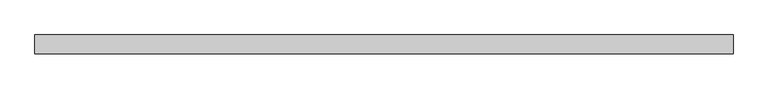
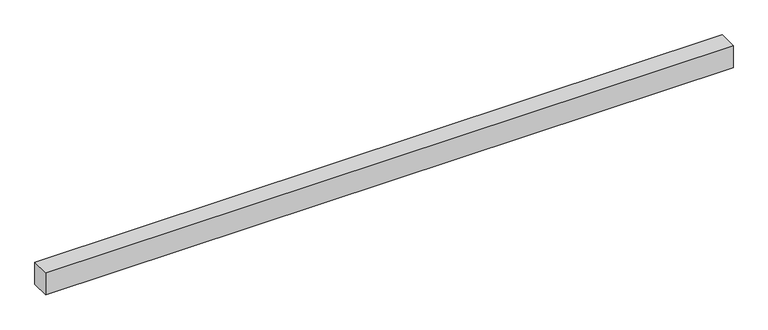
"""IFC4 building model written with IfcOpenShell, lengths in millimetres: light fixture geometry, GENILED_Светильник светодиодный_Line Advanced : Line Advanced 1472x40x50 30Вт Опал."""

from ifc_helpers import new_model, si_unit, origin, origin_with_axes, place, context, project, spatial, polyline, outline, extrude, faceted_brep, source, transform, mapped, element, save


def light_fixture_055937f4(model_context):
    return source(origin(), model_context, "Body", "SolidModel", [
        faceted_brep([(736.0, 20.0, 50.0), (-736.0, 20.0, 50.0), (-736.0, -20.0, 50.0), (736.0, -20.0, 50.0), (734.0, 18.0, 5.0), (734.0, -18.0, 5.0), (-734.0, -18.0, 5.0), (-734.0, 18.0, 5.0), (736.0, 20.0, 0.0), (736.0, -20.0, 0.0), (-736.0, -20.0, 0.0), (-736.0, 20.0, 0.0), (734.0, 18.0, 0.0), (-734.0, 18.0, 0.0), (-734.0, -18.0, 0.0), (734.0, -18.0, 0.0)], [[[0, 1, 2, 3]], [[4, 5, 6, 7]], [[8, 9, 10, 11], [12, 13, 14, 15]], [[1, 0, 8, 11]], [[2, 1, 11, 10]], [[3, 2, 10, 9]], [[0, 3, 9, 8]], [[12, 15, 5, 4]], [[15, 14, 6, 5]], [[14, 13, 7, 6]], [[13, 12, 4, 7]]]),
        extrude(outline(polyline([(734.0, 18.0), (734.0, -18.0), (-734.0, -18.0), (-734.0, 18.0), (734.0, 18.0)])), origin_with_axes(), (0.0, 0.0, 1.0), 5.0),
    ])


if __name__ == "__main__":
    model = new_model("IFC4")
    model_context = context("Model", 3, world=origin())
    ifc_project = project(units=[si_unit("LENGTHUNIT", "METRE", prefix="MILLI")], contexts=[model_context])
    site = spatial("IfcSite", under=ifc_project)
    building = spatial("IfcBuilding", under=site)
    placement = place(None, origin())
    light_fixture_shape = light_fixture_055937f4(model_context)
    element("IfcLightFixture", 1, ObjectType="GENILED_Светильник светодиодный_Line Advanced : Line Advanced 1472x40x50 30Вт Опал", at=placement, inside=building, context=model_context, shape_type="MappedRepresentation", body=[
        mapped(light_fixture_shape, transform((0.0, 0.0, 0.0), x_axis=(1.0, 0.0, 0.0), y_axis=(0.0, 1.0, 0.0), z_axis=(0.0, 0.0, 1.0))),
    ])
    save(model, "model.ifc")
